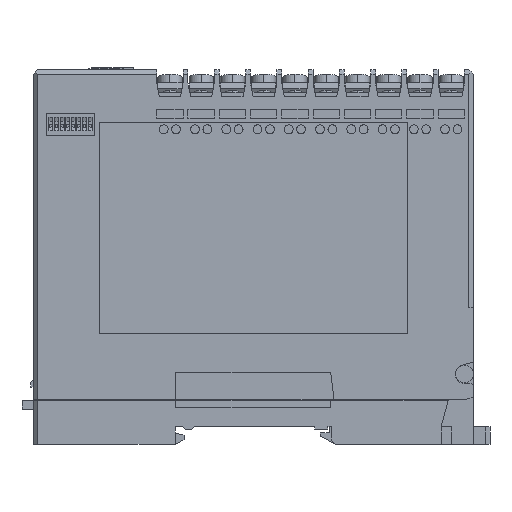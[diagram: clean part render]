
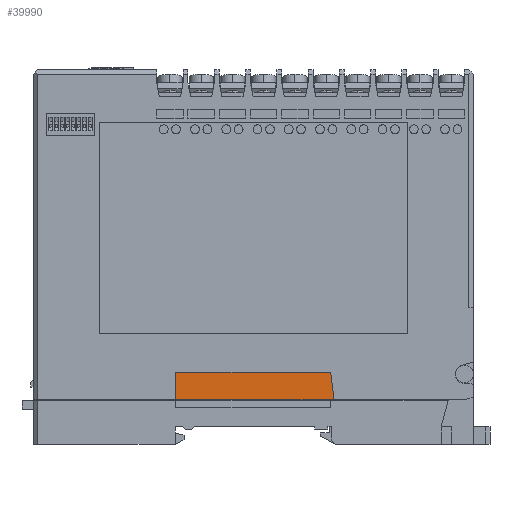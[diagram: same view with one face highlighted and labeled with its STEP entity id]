
A CAD part, left-side view. The second image highlights one B-rep face of the part: STEP entity #39990.
In plain terms, the highlighted planar face has unit normal (-1, 0, 0).
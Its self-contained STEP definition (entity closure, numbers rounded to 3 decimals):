
#2769 = EDGE_CURVE ( 'NONE', #47083, #10695, #41974, .T. ) ;
#2857 = CARTESIAN_POINT ( 'NONE',  ( 0.2, 31.613, -75. ) ) ;
#7405 = VECTOR ( 'NONE', #61589, 1000. ) ;
#9313 = LINE ( 'NONE', #9952, #45095 ) ;
#9692 = DIRECTION ( 'NONE',  ( 0., 0., -1. ) ) ;
#9952 = CARTESIAN_POINT ( 'NONE',  ( 0.2, 5.66, -75. ) ) ;
#10695 = VERTEX_POINT ( 'NONE', #35241 ) ;
#12156 = CARTESIAN_POINT ( 'NONE',  ( 0.2, 0., 0. ) ) ;
#19737 = EDGE_CURVE ( 'NONE', #10695, #38489, #23232, .T. ) ;
#20711 = VECTOR ( 'NONE', #9692, 1000. ) ;
#21462 = ORIENTED_EDGE ( 'NONE', *, *, #19737, .T. ) ;
#22225 = EDGE_CURVE ( 'NONE', #33718, #47083, #54582, .T. ) ;
#23232 = LINE ( 'NONE', #39385, #20711 ) ;
#26984 = DIRECTION ( 'NONE',  ( 1., 0., 0. ) ) ;
#27740 = CARTESIAN_POINT ( 'NONE',  ( 0.2, 67.6, -68.7 ) ) ;
#31951 = DIRECTION ( 'NONE',  ( 0., 1., 0. ) ) ;
#33718 = VERTEX_POINT ( 'NONE', #2857 ) ;
#33944 = ORIENTED_EDGE ( 'NONE', *, *, #46761, .F. ) ;
#35241 = CARTESIAN_POINT ( 'NONE',  ( 0.2, 67.6, -68.7 ) ) ;
#38489 = VERTEX_POINT ( 'NONE', #63787 ) ;
#39385 = CARTESIAN_POINT ( 'NONE',  ( 0.2, 67.6, -75. ) ) ;
#39990 = ADVANCED_FACE ( 'NONE', ( #61248 ), #56388, .F. ) ;
#41974 = LINE ( 'NONE', #27740, #52481 ) ;
#43960 = EDGE_LOOP ( 'NONE', ( #33944, #53125, #58654, #21462 ) ) ;
#45095 = VECTOR ( 'NONE', #48697, 1000. ) ;
#46693 = DIRECTION ( 'NONE',  ( 0., 0., -1. ) ) ;
#46761 = EDGE_CURVE ( 'NONE', #33718, #38489, #9313, .T. ) ;
#47083 = VERTEX_POINT ( 'NONE', #56727 ) ;
#48697 = DIRECTION ( 'NONE',  ( 0., 1., 0. ) ) ;
#50873 = AXIS2_PLACEMENT_3D ( 'NONE', #12156, #26984, #46693 ) ;
#52481 = VECTOR ( 'NONE', #31951, 1000. ) ;
#53125 = ORIENTED_EDGE ( 'NONE', *, *, #22225, .T. ) ;
#54582 = LINE ( 'NONE', #60942, #7405 ) ;
#56388 = PLANE ( 'NONE',  #50873 ) ;
#56727 = CARTESIAN_POINT ( 'NONE',  ( 0.2, 32.4, -68.7 ) ) ;
#58654 = ORIENTED_EDGE ( 'NONE', *, *, #2769, .T. ) ;
#60942 = CARTESIAN_POINT ( 'NONE',  ( 0.2, 32.4, -68.7 ) ) ;
#61248 = FACE_OUTER_BOUND ( 'NONE', #43960, .T. ) ;
#61589 = DIRECTION ( 'NONE',  ( 0., 0.124, 0.992 ) ) ;
#63787 = CARTESIAN_POINT ( 'NONE',  ( 0.2, 67.6, -75. ) ) ;
